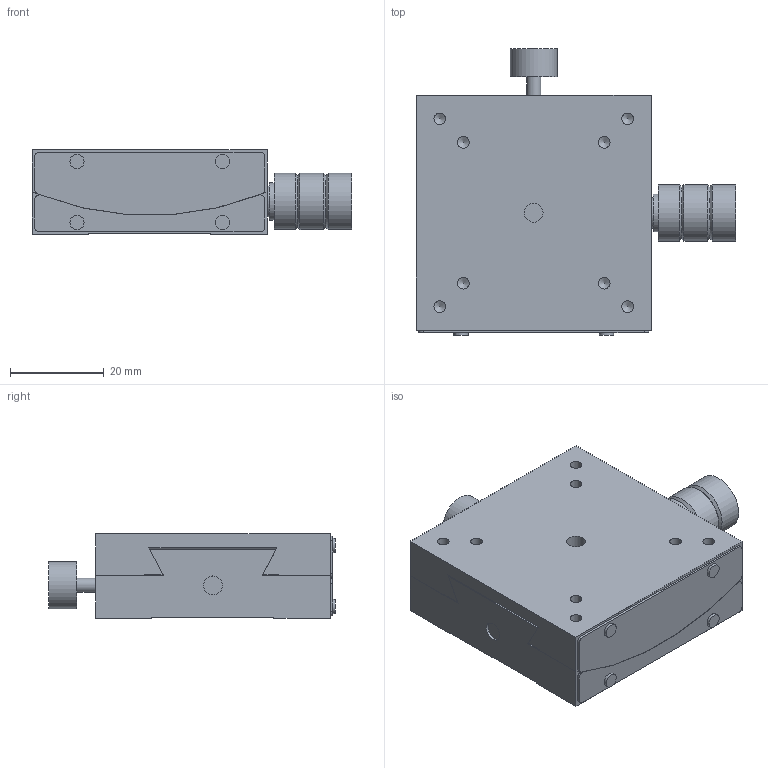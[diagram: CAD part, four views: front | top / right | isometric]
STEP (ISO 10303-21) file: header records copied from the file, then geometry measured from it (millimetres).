
FILE_DESCRIPTION( ( 'STEP AP203' ), '1' );
FILE_NAME( 'C:/Documents and Settings/09371/デスクトップ/CAD-ORG-STEP-DATA-3D簡素化依頼/3D_DATA_STEP/B54-50U.step', '2007-01-31T00:28:40', ( ' ' ), ( ' ' ), 'XStep 1.0', ' ', ' ' );
FILE_SCHEMA( ( 'CONFIG_CONTROL_DESIGN' ) );
Length unit declared in the file: millimetre
Products named in the file (3): 1; 2; 3
Bounding box: 68 x 61.1 x 18 mm (x, y, z)
Volume: 46026.7 mm3; surface area: 19098.9 mm2
Topology: 3 solids, 3 shells, 120 faces, 294 edges, 195 vertices
Faces by surface type: cylinder 55, plane 49, cone 16
Full cylindrical faces by diameter (mm): 2.5 x16, 3 x5, 3.5 x4, 4 x4, 6 x4, 6.5 x1, 8 x1, 10 x1, 12 x3
Entity records: 3512 total; most frequent: CARTESIAN_POINT 797, DIRECTION 554, ORIENTED_EDGE 436, AXIS2_PLACEMENT_3D 227, EDGE_CURVE 218, EDGE_LOOP 196, VERTEX_POINT 178, FACE_OUTER_BOUND 159
